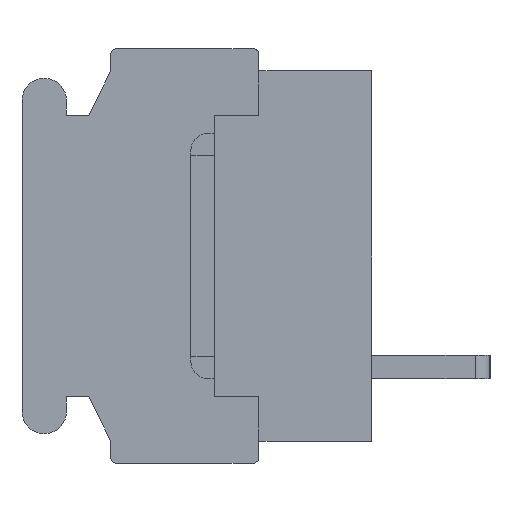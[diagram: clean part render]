
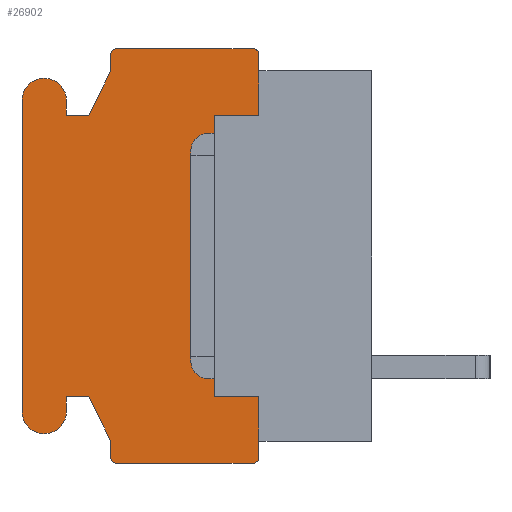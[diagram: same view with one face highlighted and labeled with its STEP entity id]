
A CAD part, left-side view. The second image highlights one B-rep face of the part: STEP entity #26902.
In plain terms, the highlighted planar face has unit normal (-1, 0, 0).
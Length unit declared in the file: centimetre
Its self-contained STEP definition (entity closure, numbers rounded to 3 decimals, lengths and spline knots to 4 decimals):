
#1555=PLANE('',#44186);
#2306=VECTOR('',#28296,1.);
#4135=VECTOR('',#32243,1.);
#4136=VECTOR('',#32244,1.);
#4137=VECTOR('',#32247,1.);
#4138=VECTOR('',#32250,1.);
#4139=VECTOR('',#32251,1.);
#4140=VECTOR('',#32252,1.);
#4141=VECTOR('',#32253,1.);
#4142=VECTOR('',#32256,1.);
#4143=VECTOR('',#32259,1.);
#4144=VECTOR('',#32260,1.);
#4145=VECTOR('',#32261,1.);
#4146=VECTOR('',#32262,1.);
#4147=VECTOR('',#32265,1.);
#4148=VECTOR('',#32268,1.);
#4149=VECTOR('',#32269,1.);
#4150=VECTOR('',#32270,1.);
#4151=VECTOR('',#32271,1.);
#5182=LINE('',#35054,#2306);
#7011=LINE('',#40876,#4135);
#7012=LINE('',#40878,#4136);
#7013=LINE('',#40882,#4137);
#7014=LINE('',#40886,#4138);
#7015=LINE('',#40888,#4139);
#7016=LINE('',#40890,#4140);
#7017=LINE('',#40892,#4141);
#7018=LINE('',#40896,#4142);
#7019=LINE('',#40900,#4143);
#7020=LINE('',#40902,#4144);
#7021=LINE('',#40904,#4145);
#7022=LINE('',#40906,#4146);
#7023=LINE('',#40910,#4147);
#7024=LINE('',#40914,#4148);
#7025=LINE('',#40915,#4149);
#7026=LINE('',#40917,#4150);
#7027=LINE('',#40918,#4151);
#7999=VERTEX_POINT('',#35055);
#8000=VERTEX_POINT('',#35056);
#8098=VERTEX_POINT('',#35327);
#8151=VERTEX_POINT('',#35438);
#9696=VERTEX_POINT('',#40877);
#9697=VERTEX_POINT('',#40879);
#9698=VERTEX_POINT('',#40881);
#9699=VERTEX_POINT('',#40883);
#9700=VERTEX_POINT('',#40885);
#9701=VERTEX_POINT('',#40887);
#9702=VERTEX_POINT('',#40889);
#9703=VERTEX_POINT('',#40891);
#9704=VERTEX_POINT('',#40893);
#9705=VERTEX_POINT('',#40895);
#9706=VERTEX_POINT('',#40897);
#9707=VERTEX_POINT('',#40899);
#9708=VERTEX_POINT('',#40901);
#9709=VERTEX_POINT('',#40903);
#9710=VERTEX_POINT('',#40905);
#9711=VERTEX_POINT('',#40907);
#9712=VERTEX_POINT('',#40909);
#9713=VERTEX_POINT('',#40911);
#9714=VERTEX_POINT('',#40913);
#9715=VERTEX_POINT('',#40916);
#10606=CIRCLE('',#44187,0.02);
#10607=CIRCLE('',#44188,0.02);
#10608=CIRCLE('',#44189,0.075);
#10609=CIRCLE('',#44190,0.075);
#10610=CIRCLE('',#44191,0.02);
#10611=CIRCLE('',#44192,0.02);
#11420=EDGE_CURVE('',#7999,#8000,#5182,.T.);
#14006=EDGE_CURVE('',#9696,#8098,#7011,.T.);
#14007=EDGE_CURVE('',#9697,#8098,#7012,.T.);
#14008=EDGE_CURVE('',#9698,#9697,#10606,.T.);
#14009=EDGE_CURVE('',#9699,#9698,#7013,.T.);
#14010=EDGE_CURVE('',#9700,#9699,#10607,.T.);
#14011=EDGE_CURVE('',#9701,#9700,#7014,.T.);
#14012=EDGE_CURVE('',#9702,#9701,#7015,.T.);
#14013=EDGE_CURVE('',#9703,#9702,#7016,.T.);
#14014=EDGE_CURVE('',#9704,#9703,#7017,.T.);
#14015=EDGE_CURVE('',#9705,#9704,#10608,.T.);
#14016=EDGE_CURVE('',#9706,#9705,#7018,.T.);
#14017=EDGE_CURVE('',#9707,#9706,#10609,.T.);
#14018=EDGE_CURVE('',#9708,#9707,#7019,.T.);
#14019=EDGE_CURVE('',#9709,#9708,#7020,.T.);
#14020=EDGE_CURVE('',#9710,#9709,#7021,.T.);
#14021=EDGE_CURVE('',#9711,#9710,#7022,.T.);
#14022=EDGE_CURVE('',#9712,#9711,#10610,.T.);
#14023=EDGE_CURVE('',#9713,#9712,#7023,.T.);
#14024=EDGE_CURVE('',#9714,#9713,#10611,.T.);
#14025=EDGE_CURVE('',#8151,#9714,#7024,.T.);
#14026=EDGE_CURVE('',#8151,#9715,#7025,.T.);
#14027=EDGE_CURVE('',#9715,#7999,#7026,.T.);
#14028=EDGE_CURVE('',#8000,#9696,#7027,.T.);
#21312=ORIENTED_EDGE('',*,*,#14006,.T.);
#21313=ORIENTED_EDGE('',*,*,#14007,.F.);
#21314=ORIENTED_EDGE('',*,*,#14008,.F.);
#21315=ORIENTED_EDGE('',*,*,#14009,.F.);
#21316=ORIENTED_EDGE('',*,*,#14010,.F.);
#21317=ORIENTED_EDGE('',*,*,#14011,.F.);
#21318=ORIENTED_EDGE('',*,*,#14012,.F.);
#21319=ORIENTED_EDGE('',*,*,#14013,.F.);
#21320=ORIENTED_EDGE('',*,*,#14014,.F.);
#21321=ORIENTED_EDGE('',*,*,#14015,.F.);
#21322=ORIENTED_EDGE('',*,*,#14016,.F.);
#21323=ORIENTED_EDGE('',*,*,#14017,.F.);
#21324=ORIENTED_EDGE('',*,*,#14018,.F.);
#21325=ORIENTED_EDGE('',*,*,#14019,.F.);
#21326=ORIENTED_EDGE('',*,*,#14020,.F.);
#21327=ORIENTED_EDGE('',*,*,#14021,.F.);
#21328=ORIENTED_EDGE('',*,*,#14022,.F.);
#21329=ORIENTED_EDGE('',*,*,#14023,.F.);
#21330=ORIENTED_EDGE('',*,*,#14024,.F.);
#21331=ORIENTED_EDGE('',*,*,#14025,.F.);
#21332=ORIENTED_EDGE('',*,*,#14026,.T.);
#21333=ORIENTED_EDGE('',*,*,#14027,.T.);
#21334=ORIENTED_EDGE('',*,*,#11420,.T.);
#21335=ORIENTED_EDGE('',*,*,#14028,.T.);
#23826=EDGE_LOOP('',(#21312,#21313,#21314,#21315,#21316,#21317,#21318,#21319,
#21320,#21321,#21322,#21323,#21324,#21325,#21326,#21327,#21328,#21329,#21330,
#21331,#21332,#21333,#21334,#21335));
#25414=FACE_BOUND('',#23826,.T.);
#26902=ADVANCED_FACE('',(#25414),#1555,.F.);
#28296=DIRECTION('',(0.,0.,1.));
#32242=DIRECTION('',(1.,0.,0.));
#32243=DIRECTION('',(0.,0.,1.));
#32244=DIRECTION('',(0.,0.,-1.));
#32245=DIRECTION('',(1.,0.,0.));
#32246=DIRECTION('',(0.,0.,-0.02));
#32247=DIRECTION('',(0.,-1.,0.));
#32248=DIRECTION('',(1.,0.,0.));
#32249=DIRECTION('',(0.,0.,-0.02));
#32250=DIRECTION('',(0.,0.,1.));
#32251=DIRECTION('',(0.,-0.447,0.894));
#32252=DIRECTION('',(0.,-1.,0.));
#32253=DIRECTION('',(0.,0.,-1.));
#32254=DIRECTION('',(1.,0.,0.));
#32255=DIRECTION('',(0.,0.,-0.075));
#32256=DIRECTION('',(0.,0.,1.));
#32257=DIRECTION('',(1.,0.,0.));
#32258=DIRECTION('',(0.,0.,-0.075));
#32259=DIRECTION('',(0.,0.,-1.));
#32260=DIRECTION('',(0.,1.,0.));
#32261=DIRECTION('',(0.,0.447,0.894));
#32262=DIRECTION('',(0.,0.,1.));
#32263=DIRECTION('',(1.,0.,0.));
#32264=DIRECTION('',(0.,0.,-0.02));
#32265=DIRECTION('',(0.,1.,0.));
#32266=DIRECTION('',(1.,0.,0.));
#32267=DIRECTION('',(0.,0.,-0.02));
#32268=DIRECTION('',(0.,0.,-1.));
#32269=DIRECTION('',(0.,0.,1.));
#32270=DIRECTION('',(0.,1.,0.));
#32271=DIRECTION('',(0.,-1.,0.));
#35054=CARTESIAN_POINT('',(-0.762,0.53,0.));
#35055=CARTESIAN_POINT('',(-0.762,0.53,-0.475));
#35056=CARTESIAN_POINT('',(-0.762,0.53,0.475));
#35327=CARTESIAN_POINT('',(-0.762,0.38,0.625));
#35438=CARTESIAN_POINT('',(-0.762,0.38,-0.625));
#40875=CARTESIAN_POINT('',(-0.762,0.6059,0.));
#40876=CARTESIAN_POINT('',(-0.762,0.38,0.275));
#40877=CARTESIAN_POINT('',(-0.762,0.38,0.475));
#40878=CARTESIAN_POINT('',(-0.762,0.38,0.68));
#40879=CARTESIAN_POINT('',(-0.762,0.38,0.68));
#40880=CARTESIAN_POINT('',(-0.762,0.4,0.68));
#40881=CARTESIAN_POINT('',(-0.762,0.4,0.7));
#40882=CARTESIAN_POINT('',(-0.762,0.86,0.7));
#40883=CARTESIAN_POINT('',(-0.762,0.86,0.7));
#40884=CARTESIAN_POINT('',(-0.762,0.86,0.68));
#40885=CARTESIAN_POINT('',(-0.762,0.88,0.68));
#40886=CARTESIAN_POINT('',(-0.762,0.88,0.625));
#40887=CARTESIAN_POINT('',(-0.762,0.88,0.625));
#40888=CARTESIAN_POINT('',(-0.762,0.955,0.475));
#40889=CARTESIAN_POINT('',(-0.762,0.955,0.475));
#40890=CARTESIAN_POINT('',(-0.762,1.03,0.475));
#40891=CARTESIAN_POINT('',(-0.762,1.03,0.475));
#40892=CARTESIAN_POINT('',(-0.762,1.03,0.525));
#40893=CARTESIAN_POINT('',(-0.762,1.03,0.525));
#40894=CARTESIAN_POINT('',(-0.762,1.105,0.525));
#40895=CARTESIAN_POINT('',(-0.762,1.18,0.525));
#40896=CARTESIAN_POINT('',(-0.762,1.18,-0.525));
#40897=CARTESIAN_POINT('',(-0.762,1.18,-0.525));
#40898=CARTESIAN_POINT('',(-0.762,1.105,-0.525));
#40899=CARTESIAN_POINT('',(-0.762,1.03,-0.525));
#40900=CARTESIAN_POINT('',(-0.762,1.03,-0.475));
#40901=CARTESIAN_POINT('',(-0.762,1.03,-0.475));
#40902=CARTESIAN_POINT('',(-0.762,0.955,-0.475));
#40903=CARTESIAN_POINT('',(-0.762,0.955,-0.475));
#40904=CARTESIAN_POINT('',(-0.762,0.88,-0.625));
#40905=CARTESIAN_POINT('',(-0.762,0.88,-0.625));
#40906=CARTESIAN_POINT('',(-0.762,0.88,-0.68));
#40907=CARTESIAN_POINT('',(-0.762,0.88,-0.68));
#40908=CARTESIAN_POINT('',(-0.762,0.86,-0.68));
#40909=CARTESIAN_POINT('',(-0.762,0.86,-0.7));
#40910=CARTESIAN_POINT('',(-0.762,0.4,-0.7));
#40911=CARTESIAN_POINT('',(-0.762,0.4,-0.7));
#40912=CARTESIAN_POINT('',(-0.762,0.4,-0.68));
#40913=CARTESIAN_POINT('',(-0.762,0.38,-0.68));
#40914=CARTESIAN_POINT('',(-0.762,0.38,-0.625));
#40915=CARTESIAN_POINT('',(-0.762,0.38,-0.275));
#40916=CARTESIAN_POINT('',(-0.762,0.38,-0.475));
#40917=CARTESIAN_POINT('',(-0.762,0.5304,-0.475));
#40918=CARTESIAN_POINT('',(-0.762,0.5304,0.475));
#44186=AXIS2_PLACEMENT_3D('',#40875,#32242,$);
#44187=AXIS2_PLACEMENT_3D('',#40880,#32245,#32246);
#44188=AXIS2_PLACEMENT_3D('',#40884,#32248,#32249);
#44189=AXIS2_PLACEMENT_3D('',#40894,#32254,#32255);
#44190=AXIS2_PLACEMENT_3D('',#40898,#32257,#32258);
#44191=AXIS2_PLACEMENT_3D('',#40908,#32263,#32264);
#44192=AXIS2_PLACEMENT_3D('',#40912,#32266,#32267);
